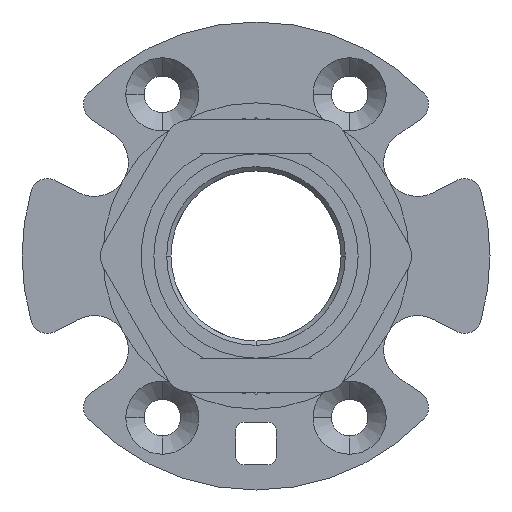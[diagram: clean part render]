
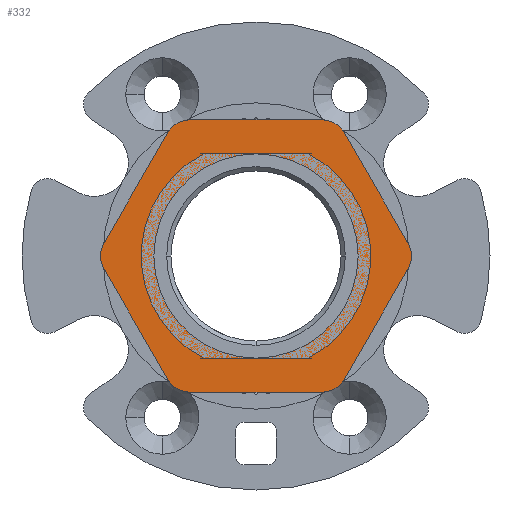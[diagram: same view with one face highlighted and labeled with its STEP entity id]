
A CAD part, front view. The second image highlights one B-rep face of the part: STEP entity #332.
In plain terms, the highlighted planar face has unit normal (0, -1, 0).
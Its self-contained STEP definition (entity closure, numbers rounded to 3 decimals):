
#70 = CIRCLE ( 'NONE', #15361, 12. ) ;
#104 = DIRECTION ( 'NONE',  ( 0.866, 0., 0.5 ) ) ;
#225 = DIRECTION ( 'NONE',  ( 0., -1., 0. ) ) ;
#332 = ADVANCED_FACE ( 'NONE', ( #2419, #26912 ), #24856, .F. ) ;
#366 = DIRECTION ( 'NONE',  ( 0., -1., 0. ) ) ;
#391 = CARTESIAN_POINT ( 'NONE',  ( 5.634, 0., -30.5 ) ) ;
#571 = ORIENTED_EDGE ( 'NONE', *, *, #3132, .T. ) ;
#603 = CIRCLE ( 'NONE', #23304, 12. ) ;
#1010 = DIRECTION ( 'NONE',  ( -1., 0., 0. ) ) ;
#1146 = CARTESIAN_POINT ( 'NONE',  ( 23.768, 0., 0. ) ) ;
#1370 = CIRCLE ( 'NONE', #15792, 3. ) ;
#1398 = AXIS2_PLACEMENT_3D ( 'NONE', #13985, #15915, #22314 ) ;
#1441 = ORIENTED_EDGE ( 'NONE', *, *, #20557, .F. ) ;
#1498 = DIRECTION ( 'NONE',  ( 0.5, 0., -0.866 ) ) ;
#1730 = CARTESIAN_POINT ( 'NONE',  ( 5.634, 0., -30.5 ) ) ;
#1746 = DIRECTION ( 'NONE',  ( 0., -1., 0. ) ) ;
#1809 = ORIENTED_EDGE ( 'NONE', *, *, #20765, .T. ) ;
#2115 = CARTESIAN_POINT ( 'NONE',  ( 33.872, 0., -17.5 ) ) ;
#2282 = CARTESIAN_POINT ( 'NONE',  ( 23.768, 0., -3. ) ) ;
#2419 = FACE_BOUND ( 'NONE', #11872, .T. ) ;
#2462 = VERTEX_POINT ( 'NONE', #5516 ) ;
#2741 = CARTESIAN_POINT ( 'NONE',  ( 5.634, 0., -1.5 ) ) ;
#2825 = EDGE_CURVE ( 'NONE', #7133, #17363, #15340, .T. ) ;
#2910 = CARTESIAN_POINT ( 'NONE',  ( 23.768, 0., -32. ) ) ;
#3132 = EDGE_CURVE ( 'NONE', #8919, #4626, #1370, .T. ) ;
#3352 = VECTOR ( 'NONE', #14496, 1000. ) ;
#3410 = ORIENTED_EDGE ( 'NONE', *, *, #26625, .T. ) ;
#4210 = CARTESIAN_POINT ( 'NONE',  ( 4., 0., -16. ) ) ;
#4626 = VERTEX_POINT ( 'NONE', #10540 ) ;
#4730 = ORIENTED_EDGE ( 'NONE', *, *, #8413, .F. ) ;
#4895 = AXIS2_PLACEMENT_3D ( 'NONE', #18569, #1746, #8171 ) ;
#5117 = CARTESIAN_POINT ( 'NONE',  ( 16., 0., -16. ) ) ;
#5201 = CARTESIAN_POINT ( 'NONE',  ( 8.232, 0., 0. ) ) ;
#5375 = VERTEX_POINT ( 'NONE', #12725 ) ;
#5472 = DIRECTION ( 'NONE',  ( 0., -1., 0. ) ) ;
#5516 = CARTESIAN_POINT ( 'NONE',  ( 26.366, 0., -1.5 ) ) ;
#6042 = AXIS2_PLACEMENT_3D ( 'NONE', #12679, #10643, #18968 ) ;
#6157 = VECTOR ( 'NONE', #1498, 1000. ) ;
#6411 = ORIENTED_EDGE ( 'NONE', *, *, #21444, .F. ) ;
#6424 = ORIENTED_EDGE ( 'NONE', *, *, #13741, .F. ) ;
#6636 = AXIS2_PLACEMENT_3D ( 'NONE', #8283, #225, #18803 ) ;
#7089 = VECTOR ( 'NONE', #20905, 1000. ) ;
#7133 = VERTEX_POINT ( 'NONE', #2910 ) ;
#7952 = CIRCLE ( 'NONE', #1398, 3. ) ;
#8010 = LINE ( 'NONE', #2115, #13908 ) ;
#8019 = DIRECTION ( 'NONE',  ( 1., 0., 0. ) ) ;
#8171 = DIRECTION ( 'NONE',  ( 0., 0., 1. ) ) ;
#8283 = CARTESIAN_POINT ( 'NONE',  ( 8.232, 0., -29. ) ) ;
#8413 = EDGE_CURVE ( 'NONE', #17809, #25770, #16818, .T. ) ;
#8415 = ORIENTED_EDGE ( 'NONE', *, *, #10684, .F. ) ;
#8503 = ORIENTED_EDGE ( 'NONE', *, *, #15297, .T. ) ;
#8775 = DIRECTION ( 'NONE',  ( -1., 0., 0. ) ) ;
#8919 = VERTEX_POINT ( 'NONE', #21280 ) ;
#8957 = DIRECTION ( 'NONE',  ( 0., -1., 0. ) ) ;
#9358 = DIRECTION ( 'NONE',  ( -0.866, 0., 0.5 ) ) ;
#9754 = ORIENTED_EDGE ( 'NONE', *, *, #12523, .F. ) ;
#9831 = VERTEX_POINT ( 'NONE', #5201 ) ;
#10061 = CARTESIAN_POINT ( 'NONE',  ( 8.232, 0., -32. ) ) ;
#10093 = CARTESIAN_POINT ( 'NONE',  ( 31.274, 0., -16. ) ) ;
#10138 = CARTESIAN_POINT ( 'NONE',  ( -1.872, 0., -14.5 ) ) ;
#10196 = CIRCLE ( 'NONE', #14568, 3. ) ;
#10490 = CARTESIAN_POINT ( 'NONE',  ( -1.872, 0., -17.5 ) ) ;
#10540 = CARTESIAN_POINT ( 'NONE',  ( 33.872, 0., -14.5 ) ) ;
#10643 = DIRECTION ( 'NONE',  ( 0., 1., 0. ) ) ;
#10684 = EDGE_CURVE ( 'NONE', #11102, #23271, #21033, .T. ) ;
#10756 = EDGE_LOOP ( 'NONE', ( #24641, #3410, #6424, #571, #6411, #19483, #9754, #13965, #4730, #8503, #8415, #1809 ) ) ;
#11102 = VERTEX_POINT ( 'NONE', #1730 ) ;
#11464 = AXIS2_PLACEMENT_3D ( 'NONE', #15236, #13587, #9358 ) ;
#11872 = EDGE_LOOP ( 'NONE', ( #12153, #1441 ) ) ;
#12153 = ORIENTED_EDGE ( 'NONE', *, *, #16829, .F. ) ;
#12523 = EDGE_CURVE ( 'NONE', #9831, #24012, #16990, .T. ) ;
#12679 = CARTESIAN_POINT ( 'NONE',  ( 16., 0., -16. ) ) ;
#12725 = CARTESIAN_POINT ( 'NONE',  ( 28., 0., -16. ) ) ;
#13228 = DIRECTION ( 'NONE',  ( 0.866, 0., -0.5 ) ) ;
#13587 = DIRECTION ( 'NONE',  ( 0., -1., 0. ) ) ;
#13741 = EDGE_CURVE ( 'NONE', #8919, #22968, #8010, .T. ) ;
#13908 = VECTOR ( 'NONE', #22913, 1000. ) ;
#13965 = ORIENTED_EDGE ( 'NONE', *, *, #18760, .T. ) ;
#13985 = CARTESIAN_POINT ( 'NONE',  ( 23.768, 0., -29. ) ) ;
#14496 = DIRECTION ( 'NONE',  ( -0.5, 0., 0.866 ) ) ;
#14568 = AXIS2_PLACEMENT_3D ( 'NONE', #2282, #366, #104 ) ;
#14935 = CIRCLE ( 'NONE', #6636, 3. ) ;
#14938 = CIRCLE ( 'NONE', #4895, 3. ) ;
#15206 = CARTESIAN_POINT ( 'NONE',  ( 23.768, 0., -32. ) ) ;
#15236 = CARTESIAN_POINT ( 'NONE',  ( 0.726, 0., -16. ) ) ;
#15297 = EDGE_CURVE ( 'NONE', #17809, #23271, #17134, .T. ) ;
#15340 = LINE ( 'NONE', #15206, #19423 ) ;
#15361 = AXIS2_PLACEMENT_3D ( 'NONE', #26772, #5472, #8019 ) ;
#15792 = AXIS2_PLACEMENT_3D ( 'NONE', #10093, #17318, #13228 ) ;
#15915 = DIRECTION ( 'NONE',  ( 0., -1., 0. ) ) ;
#16125 = EDGE_CURVE ( 'NONE', #2462, #24012, #10196, .T. ) ;
#16818 = LINE ( 'NONE', #10138, #7089 ) ;
#16829 = EDGE_CURVE ( 'NONE', #18805, #5375, #603, .T. ) ;
#16990 = LINE ( 'NONE', #20805, #26083 ) ;
#17021 = CARTESIAN_POINT ( 'NONE',  ( -1.872, 0., -14.5 ) ) ;
#17134 = CIRCLE ( 'NONE', #11464, 3. ) ;
#17318 = DIRECTION ( 'NONE',  ( 0., -1., 0. ) ) ;
#17363 = VERTEX_POINT ( 'NONE', #10061 ) ;
#17809 = VERTEX_POINT ( 'NONE', #17021 ) ;
#18569 = CARTESIAN_POINT ( 'NONE',  ( 8.232, 0., -3. ) ) ;
#18760 = EDGE_CURVE ( 'NONE', #9831, #25770, #14938, .T. ) ;
#18803 = DIRECTION ( 'NONE',  ( -0.866, 0., -0.5 ) ) ;
#18805 = VERTEX_POINT ( 'NONE', #4210 ) ;
#18906 = DIRECTION ( 'NONE',  ( 1., 0., 0. ) ) ;
#18968 = DIRECTION ( 'NONE',  ( 1., 0., 0. ) ) ;
#19423 = VECTOR ( 'NONE', #8775, 1000. ) ;
#19483 = ORIENTED_EDGE ( 'NONE', *, *, #16125, .T. ) ;
#20557 = EDGE_CURVE ( 'NONE', #5375, #18805, #70, .T. ) ;
#20765 = EDGE_CURVE ( 'NONE', #11102, #17363, #14935, .T. ) ;
#20805 = CARTESIAN_POINT ( 'NONE',  ( 8.232, 0., 0. ) ) ;
#20905 = DIRECTION ( 'NONE',  ( 0.5, 0., 0.866 ) ) ;
#21033 = LINE ( 'NONE', #391, #3352 ) ;
#21280 = CARTESIAN_POINT ( 'NONE',  ( 33.872, 0., -17.5 ) ) ;
#21444 = EDGE_CURVE ( 'NONE', #2462, #4626, #23937, .T. ) ;
#21872 = CARTESIAN_POINT ( 'NONE',  ( 26.366, 0., -1.5 ) ) ;
#22314 = DIRECTION ( 'NONE',  ( 0., 0., -1. ) ) ;
#22913 = DIRECTION ( 'NONE',  ( -0.5, 0., -0.866 ) ) ;
#22968 = VERTEX_POINT ( 'NONE', #23635 ) ;
#23271 = VERTEX_POINT ( 'NONE', #10490 ) ;
#23304 = AXIS2_PLACEMENT_3D ( 'NONE', #5117, #8957, #1010 ) ;
#23635 = CARTESIAN_POINT ( 'NONE',  ( 26.366, 0., -30.5 ) ) ;
#23937 = LINE ( 'NONE', #21872, #6157 ) ;
#24012 = VERTEX_POINT ( 'NONE', #1146 ) ;
#24641 = ORIENTED_EDGE ( 'NONE', *, *, #2825, .F. ) ;
#24856 = PLANE ( 'NONE',  #6042 ) ;
#25770 = VERTEX_POINT ( 'NONE', #2741 ) ;
#26083 = VECTOR ( 'NONE', #18906, 1000. ) ;
#26625 = EDGE_CURVE ( 'NONE', #7133, #22968, #7952, .T. ) ;
#26772 = CARTESIAN_POINT ( 'NONE',  ( 16., 0., -16. ) ) ;
#26912 = FACE_OUTER_BOUND ( 'NONE', #10756, .T. ) ;
